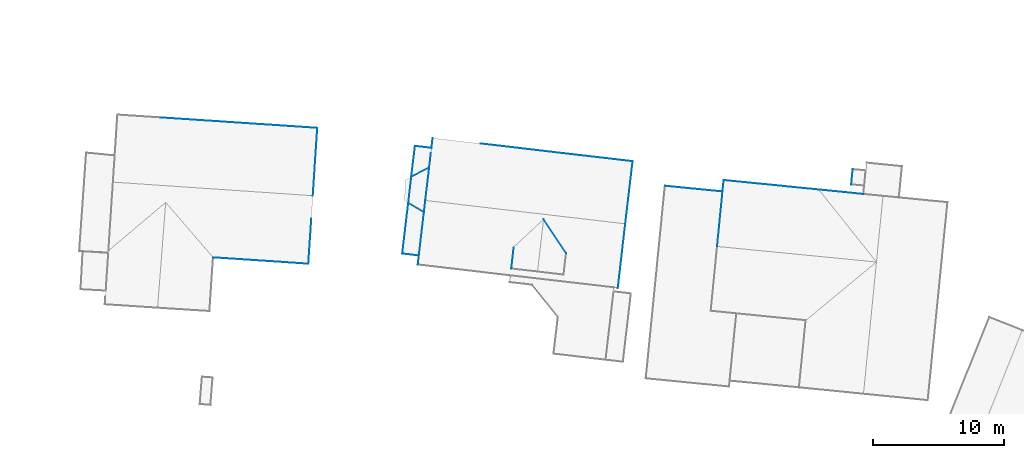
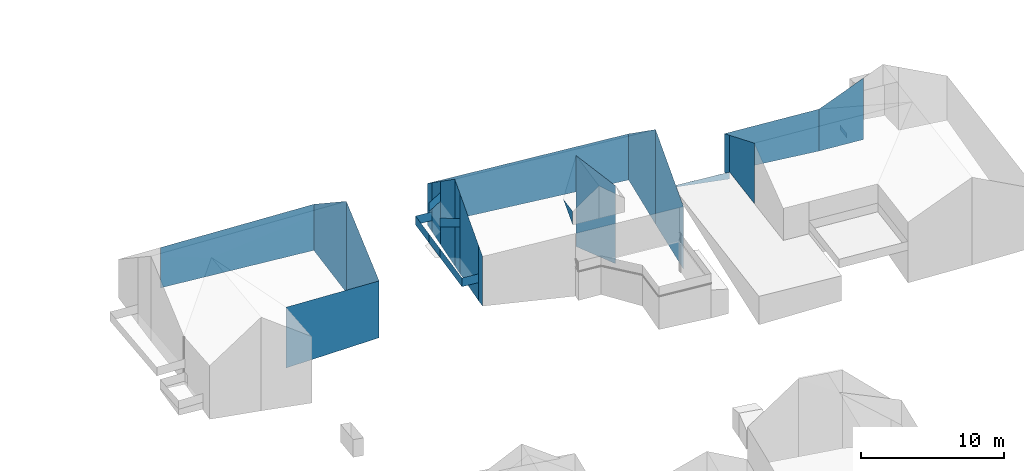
# Not in any storey, part 39 of 57: 35 walls.
"""IFC2X3 building model written with IfcOpenShell, lengths in metres."""

import ifcopenshell
import ifcopenshell.guid

model = None  # the IFC model being written
_history = None  # IfcOwnerHistory: only IFC2X3 demands one
_inside = {}  # id of a spatial element -> (the spatial element, [elements in it])
_under = {}  # id of a project, library or spatial element -> (it, [spatial elements below it])
_declared = {}  # id of a project -> (the project, [libraries it declares])
_typed = {}  # id of a type object -> (the type object, [elements of that type])
_made_of = {}  # id of a material, layer set ... -> (it, [elements and type objects made of it])


def new_model(schema):
    """Start an empty IFC model of exactly this schema.

    Asked for "IFC4X3", IfcOpenShell would pick the latest addendum, in which some entities
    have other attributes; the version numbers below select the first issue.
    IFC2X3 requires an IfcOwnerHistory on every rooted entity: one is made here for all.
    """
    global model, _history
    if schema == "IFC4X3":
        model = ifcopenshell.file(schema_version=(4, 3, 0, 0))
    else:
        model = ifcopenshell.file(schema=schema)
    _inside.clear()
    _under.clear()
    _declared.clear()
    _typed.clear()
    _made_of.clear()
    _history = None
    if model.schema == "IFC2X3":
        org = make("IfcOrganization", Name="unknown")
        user = make(
            "IfcPersonAndOrganization",
            ThePerson=make("IfcPerson", FamilyName="unknown"),
            TheOrganization=org,
        )
        app = make(
            "IfcApplication",
            ApplicationDeveloper=org,
            Version="unknown",
            ApplicationFullName="unknown",
            ApplicationIdentifier="unknown",
        )
        _history = make(
            "IfcOwnerHistory",
            OwningUser=user,
            OwningApplication=app,
            ChangeAction="ADDED",
            CreationDate=0,
        )
    return model


def make(cls, **values):
    """One entity of the class cls with the attributes given. An attribute that is None is left unset."""
    return model.create_entity(
        cls, **{name: value for name, value in values.items() if value is not None}
    )


def entity(cls, *values):
    """Any entity or typed value of the class cls, its attributes in the order of the schema. None: left unset."""
    e = model.create_entity(cls)
    for i, value in enumerate(values):
        if value is not None:
            e[i] = value
    return e


def rooted(cls, **values):
    """An entity with a GlobalId (a new one), such as an element, a storey or a relation."""
    return make(cls, GlobalId=ifcopenshell.guid.new(), OwnerHistory=_history, **values)


def si_unit(unit_type, name, prefix=None):
    """IfcSIUnit, for example si_unit("LENGTHUNIT", "METRE", prefix="MILLI")."""
    return make("IfcSIUnit", UnitType=unit_type, Prefix=prefix, Name=name)


def converted_unit(unit_type, name, factor, base, dimensions=None, offset=None):
    """IfcConversionBasedUnit, such as the inch: factor (a typed value) times the base unit."""
    return make(
        "IfcConversionBasedUnit"
        if offset is None
        else "IfcConversionBasedUnitWithOffset",
        ConversionOffset=offset,
        Dimensions=None
        if dimensions is None
        else entity("IfcDimensionalExponents", *dimensions),
        UnitType=unit_type,
        Name=name,
        ConversionFactor=make(
            "IfcMeasureWithUnit", ValueComponent=factor, UnitComponent=base
        ),
    )


def assignment(units):
    """IfcUnitAssignment: the units of a project."""
    return None if units is None else make("IfcUnitAssignment", Units=units)


def point(xyz):
    """IfcCartesianPoint."""
    return None if xyz is None else make("IfcCartesianPoint", Coordinates=xyz)


def direction(xyz):
    """IfcDirection."""
    return None if xyz is None else make("IfcDirection", DirectionRatios=xyz)


def frame(location, z_axis=None, x_axis=None):
    """IfcAxis2Placement3D, a coordinate frame: its origin and axes. An axis left out is left unset."""
    return make(
        "IfcAxis2Placement3D",
        Location=point(location),
        Axis=direction(z_axis),
        RefDirection=direction(x_axis),
    )


def origin():
    """The frame at (0, 0, 0) with its axes left unset."""
    return frame((0.0, 0.0, 0.0))


def place(relative_to, where):
    """IfcLocalPlacement: puts the frame where relative to a parent placement (None: the world)."""
    return make(
        "IfcLocalPlacement", PlacementRelTo=relative_to, RelativePlacement=where
    )


def context(
    kind, dimensions, precision=None, world=None, true_north=None, identifier=None
):
    """IfcGeometricRepresentationContext, for example the 3D "Model" context."""
    return make(
        "IfcGeometricRepresentationContext",
        ContextIdentifier=identifier,
        ContextType=kind,
        CoordinateSpaceDimension=dimensions,
        Precision=precision,
        WorldCoordinateSystem=world,
        TrueNorth=true_north,
    )


def subcontext(parent, identifier, kind, view, scale=None):
    """IfcGeometricRepresentationSubContext, for example "Body" below "Model"."""
    return make(
        "IfcGeometricRepresentationSubContext",
        ContextIdentifier=identifier,
        ContextType=kind,
        ParentContext=parent,
        TargetScale=scale,
        TargetView=view,
    )


def project(units=None, contexts=None):
    """IfcProject with its units and contexts."""
    return rooted(
        "IfcProject",
        Name="project",
        RepresentationContexts=contexts,
        UnitsInContext=assignment(units),
    )


def spatial(cls, under=None, at=None, **own):
    """A site, building, storey or space (cls), placed at a placement, below another one or the project."""
    s = rooted(cls, ObjectPlacement=at, **own)
    if under is not None:
        _under.setdefault(under.id(), (under, []))[1].append(s)
    return s


def faces_of(points, faces, orient=None, outer=None):
    """IfcFace entities. A face is a list of loops; a loop is a list of indices into points, from 0.

    orient and outer hold one flag for each loop. By default every Orientation is true, the
    first loop of a face is its IfcFaceOuterBound and the others are IfcFaceBound.
    """
    made = []
    for i, loops in enumerate(faces):
        bounds = []
        for j, loop in enumerate(loops):
            is_outer = j == 0 if outer is None else outer[i][j]
            bounds.append(
                make(
                    "IfcFaceOuterBound" if is_outer else "IfcFaceBound",
                    Bound=make("IfcPolyLoop", Polygon=[points[k] for k in loop]),
                    Orientation=True if orient is None else orient[i][j],
                )
            )
        made.append(make("IfcFace", Bounds=bounds))
    return made


def face_set(faces, orient=None, outer=None):
    """The faces of one IfcConnectedFaceSet. surface_model builds it on its shared points."""
    return ("IfcConnectedFaceSet", faces, orient, outer)


def surface_model(cls, points, shells):
    """IfcFaceBasedSurfaceModel or IfcShellBasedSurfaceModel (cls): surfaces that need not close."""
    shared = [point(p) for p in points]
    made = [make(c, CfsFaces=faces_of(shared, fs, o, b)) for c, fs, o, b in shells]
    if cls == "IfcFaceBasedSurfaceModel":
        return make(cls, FbsmFaces=made)
    return make(cls, SbsmBoundary=made)


def shape(context_of_items, identifier, shape_type, items):
    """IfcShapeRepresentation: the items that make up one representation, for example the "Body"."""
    return make(
        "IfcShapeRepresentation",
        ContextOfItems=context_of_items,
        RepresentationIdentifier=identifier,
        RepresentationType=shape_type,
        Items=items,
    )


def made_of(thing, what):
    """Note that an element or type object is made of a material, layer set ...; save() writes the relation."""
    if what is not None:
        _made_of.setdefault(what.id(), (what, []))[1].append(thing)
    return thing


def element(
    cls,
    number,
    at=None,
    inside=None,
    cuts=None,
    type_object=None,
    material=None,
    context=None,
    identifier="Body",
    shape_type=None,
    held_by="IfcProductDefinitionShape",
    body=None,
    shapes=None,
    **own,
):
    """One element of the class cls, such as IfcWall. Its Tag is "e" and its number.

    at: its placement. inside: the storey or other place that contains it. cuts: it is an
    opening in that element (IfcRelVoidsElement). A single representation is given by context,
    identifier, shape_type and body (its items); several are given by shapes. held_by: the class
    of the entity that holds the representations. save() writes the other relations.
    """
    e = rooted(cls, Tag="e%d" % number, ObjectPlacement=at, **own)
    if body is not None:
        shapes = [shape(context, identifier, shape_type, body)]
    if shapes is not None:
        e.Representation = make(held_by, Representations=shapes)
    if inside is not None:
        _inside.setdefault(inside.id(), (inside, []))[1].append(e)
    if cuts is not None:
        rooted(
            "IfcRelVoidsElement", RelatingBuildingElement=cuts, RelatedOpeningElement=e
        )
    if type_object is not None:
        _typed.setdefault(type_object.id(), (type_object, []))[1].append(e)
    return made_of(e, material)


def aggregate(whole, parts):
    """IfcRelAggregates: a whole, such as a stair, and the parts it consists of."""
    return rooted("IfcRelAggregates", RelatingObject=whole, RelatedObjects=parts)


def save(model, path):
    """Write the relations noted so far, then the file.

    IfcRelAggregates (storeys below a building ...), IfcRelContainedInSpatialStructure (elements
    in a storey), IfcRelDefinesByType, IfcRelAssociatesMaterial and IfcRelDeclares: one each for
    every whole, place, type object, material and project.
    """
    for whole, parts in _under.values():
        aggregate(whole, parts)
    for where, things in _inside.values():
        rooted(
            "IfcRelContainedInSpatialStructure",
            RelatedElements=things,
            RelatingStructure=where,
        )
    for kind, things in _typed.values():
        rooted("IfcRelDefinesByType", RelatedObjects=things, RelatingType=kind)
    for what, things in _made_of.values():
        rooted("IfcRelAssociatesMaterial", RelatedObjects=things, RelatingMaterial=what)
    for by, libraries in _declared.values():
        rooted("IfcRelDeclares", RelatingContext=by, RelatedDefinitions=libraries)
    model.write(path)


model = new_model("IFC2X3")

# Units and contexts
model_context = context("Model", 3, precision=1e-05, world=origin())
body_context = subcontext(model_context, "Body", "Model", "MODEL_VIEW")
ifc_project = project(units=[converted_unit("PLANEANGLEUNIT", "DEGREE", entity("IfcRatioMeasure", 0.0174532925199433), si_unit("PLANEANGLEUNIT", "RADIAN"), dimensions=[0, 0, 0, 0, 0, 0, 0]), si_unit("AREAUNIT", "SQUARE_METRE"), si_unit("LENGTHUNIT", "METRE")], contexts=[model_context])

# Site, building
site_placement = place(None, origin())
site = spatial("IfcSite", under=ifc_project, at=site_placement, Name="_site", CompositionType="ELEMENT")
building_1_placement = place(site_placement, origin())
building_1 = spatial("IfcBuilding", under=site, at=building_1_placement, Name="_building", CompositionType="ELEMENT")

# Walls
wall_1_placement = place(building_1_placement, origin())
element("IfcWall", 1, at=wall_1_placement, inside=building_1, Name="Wall", context=body_context, shape_type="SurfaceModel", body=[
    surface_model("IfcFaceBasedSurfaceModel", [(242.468, 147.971, 117.68), (242.657, 149.627, 117.674), (242.468, 147.971, 116.513)], [face_set([[[0, 1, 2]]])]),
])
wall_2_placement = place(building_1_placement, origin())
element("IfcWall", 2, at=wall_2_placement, inside=building_1, Name="Wall", context=body_context, shape_type="SurfaceModel", body=[
    surface_model("IfcFaceBasedSurfaceModel", [(251.143, 151.39, 119.58), (250.578, 146.5, 116.15), (250.578, 146.5, 110.785), (251.143, 151.39, 111.47)], [face_set([[[0, 1, 2, 3]]])]),
])
wall_3_placement = place(building_1_placement, origin())
element("IfcWall", 3, at=wall_3_placement, inside=building_1, Name="Wall", context=body_context, shape_type="SurfaceModel", body=[
    surface_model("IfcFaceBasedSurfaceModel", [(251.705, 156.14, 116.13), (251.143, 151.39, 119.58), (251.143, 151.39, 111.47), (251.705, 156.14, 112.179)], [face_set([[[0, 1, 2, 3]]])]),
])
wall_4_placement = place(building_1_placement, origin())
element("IfcWall", 4, at=wall_4_placement, inside=building_1, Name="Wall", context=body_context, shape_type="SurfaceModel", body=[
    surface_model("IfcFaceBasedSurfaceModel", [(235.43, 148.966, 116.632), (235.816, 152.248, 118.935), (235.816, 152.248, 112.093), (235.43, 148.966, 111.888)], [face_set([[[0, 1, 2, 3]]])]),
])
wall_5_placement = place(building_1_placement, origin())
element("IfcWall", 5, at=wall_5_placement, inside=building_1, Name="Wall", context=body_context, shape_type="SurfaceModel", body=[
    surface_model("IfcFaceBasedSurfaceModel", [(235.925, 153.167, 119.58), (236.215, 155.673, 117.77), (236.215, 155.673, 112.371), (235.925, 153.167, 112.159)], [face_set([[[0, 1, 2, 3]]])]),
])
wall_6_placement = place(building_1_placement, origin())
element("IfcWall", 6, at=wall_6_placement, inside=building_1, Name="Wall", context=body_context, shape_type="SurfaceModel", body=[
    surface_model("IfcFaceBasedSurfaceModel", [(244.917, 151.736, 119.316), (246.638, 149.164, 117.675), (246.638, 149.164, 111.011), (244.917, 151.736, 111.532)], [face_set([[[0, 1, 2, 3]]])]),
])
wall_7_placement = place(building_1_placement, origin())
element("IfcWall", 7, at=wall_7_placement, inside=building_1, Name="Wall", context=body_context, shape_type="SurfaceModel", body=[
    surface_model("IfcFaceBasedSurfaceModel", [(236.477, 157.917, 116.15), (251.705, 156.14, 116.13), (251.705, 156.14, 112.179), (236.477, 157.917, 112.557)], [face_set([[[0, 1, 2, 3]]])]),
])
wall_8_placement = place(building_1_placement, origin())
element("IfcWall", 8, at=wall_8_placement, inside=building_1, Name="Wall", context=body_context, shape_type="SurfaceModel", body=[
    surface_model("IfcFaceBasedSurfaceModel", [(235.816, 152.248, 118.935), (235.925, 153.167, 119.58), (235.925, 153.167, 112.159), (235.816, 152.248, 112.093)], [face_set([[[0, 1, 2, 3]]])]),
])
wall_9_placement = place(building_1_placement, origin())
element("IfcWall", 9, at=wall_9_placement, inside=building_1, Name="Wall", context=body_context, shape_type="SurfaceModel", body=[
    surface_model("IfcFaceBasedSurfaceModel", [(236.215, 155.673, 117.77), (236.389, 157.159, 116.697), (236.389, 157.159, 112.494), (236.215, 155.673, 112.371)], [face_set([[[0, 1, 2, 3]]])]),
])
wall_10_placement = place(building_1_placement, origin())
element("IfcWall", 10, at=wall_10_placement, inside=building_1, Name="Wall", context=body_context, shape_type="SurfaceModel", body=[
    surface_model("IfcFaceBasedSurfaceModel", [(235.35, 148.278, 116.15), (235.43, 148.966, 116.632), (235.43, 148.966, 111.888), (235.35, 148.278, 111.881)], [face_set([[[0, 1, 2, 3]]])]),
])
wall_11_placement = place(building_1_placement, origin())
element("IfcWall", 11, at=wall_11_placement, inside=building_1, Name="Wall", context=body_context, shape_type="SurfaceModel", body=[
    surface_model("IfcFaceBasedSurfaceModel", [(236.389, 157.159, 116.697), (236.477, 157.917, 116.15), (236.477, 157.917, 112.557), (236.389, 157.159, 112.494)], [face_set([[[0, 1, 2, 3]]])]),
])
wall_12_placement = place(building_1_placement, origin())
element("IfcWall", 12, at=wall_12_placement, inside=building_1, Name="Wall", context=body_context, shape_type="SurfaceModel", body=[
    surface_model("IfcFaceBasedSurfaceModel", [(235.43, 148.966, 113.45), (234.169, 149.116, 113.45), (234.169, 149.116, 114.2), (235.43, 148.966, 114.2)], [face_set([[[0, 1, 2, 3]]])]),
])
wall_13_placement = place(building_1_placement, origin())
element("IfcWall", 13, at=wall_13_placement, inside=building_1, Name="Wall", context=body_context, shape_type="SurfaceModel", body=[
    surface_model("IfcFaceBasedSurfaceModel", [(234.622, 152.968, 116.07), (235.816, 152.248, 116.07), (235.816, 152.248, 116.82), (234.622, 152.968, 116.82)], [face_set([[[0, 1, 2, 3]]])]),
])
wall_14_placement = place(building_1_placement, origin())
element("IfcWall", 14, at=wall_14_placement, inside=building_1, Name="Wall", context=body_context, shape_type="SurfaceModel", body=[
    surface_model("IfcFaceBasedSurfaceModel", [(234.622, 152.968, 113.45), (234.856, 154.961, 113.45), (234.856, 154.961, 114.2), (234.622, 152.968, 114.2)], [face_set([[[0, 1, 2, 3]]])]),
])
wall_15_placement = place(building_1_placement, origin())
element("IfcWall", 15, at=wall_15_placement, inside=building_1, Name="Wall", context=body_context, shape_type="SurfaceModel", body=[
    surface_model("IfcFaceBasedSurfaceModel", [(236.215, 155.673, 116.07), (234.856, 154.961, 116.07), (234.856, 154.961, 116.82), (236.215, 155.673, 116.82)], [face_set([[[0, 1, 2, 3]]])]),
])
wall_16_placement = place(building_1_placement, origin())
element("IfcWall", 16, at=wall_16_placement, inside=building_1, Name="Wall", context=body_context, shape_type="SurfaceModel", body=[
    surface_model("IfcFaceBasedSurfaceModel", [(234.169, 149.116, 113.45), (234.622, 152.968, 113.45), (234.622, 152.968, 114.2), (234.169, 149.116, 114.2)], [face_set([[[0, 1, 2, 3]]])]),
])
wall_17_placement = place(building_1_placement, origin())
element("IfcWall", 17, at=wall_17_placement, inside=building_1, Name="Wall", context=body_context, shape_type="SurfaceModel", body=[
    surface_model("IfcFaceBasedSurfaceModel", [(235.132, 157.308, 113.45), (236.389, 157.159, 113.45), (236.389, 157.159, 114.2), (235.132, 157.308, 114.2)], [face_set([[[0, 1, 2, 3]]])]),
])
wall_18_placement = place(building_1_placement, origin())
element("IfcWall", 18, at=wall_18_placement, inside=building_1, Name="Wall", context=body_context, shape_type="SurfaceModel", body=[
    surface_model("IfcFaceBasedSurfaceModel", [(234.856, 154.961, 113.45), (235.132, 157.308, 113.45), (235.132, 157.308, 114.2), (234.856, 154.961, 114.2)], [face_set([[[0, 1, 2, 3]]])]),
])
wall_19_placement = place(building_1_placement, origin())
element("IfcWall", 19, at=wall_19_placement, inside=building_1, Name="Wall", context=body_context, shape_type="SurfaceModel", body=[
    surface_model("IfcFaceBasedSurfaceModel", [(234.169, 149.116, 113.45), (234.622, 152.968, 113.45), (234.622, 152.968, 114.2), (234.169, 149.116, 114.2)], [face_set([[[0, 1, 2, 3]]])]),
])
wall_20_placement = place(building_1_placement, origin())
element("IfcWall", 20, at=wall_20_placement, inside=building_1, Name="Wall", context=body_context, shape_type="SurfaceModel", body=[
    surface_model("IfcFaceBasedSurfaceModel", [(235.43, 148.966, 113.45), (234.169, 149.116, 113.45), (234.169, 149.116, 114.2), (235.43, 148.966, 114.2)], [face_set([[[0, 1, 2, 3]]])]),
])
wall_21_placement = place(building_1_placement, origin())
element("IfcWall", 21, at=wall_21_placement, inside=building_1, Name="Wall", context=body_context, shape_type="SurfaceModel", body=[
    surface_model("IfcFaceBasedSurfaceModel", [(236.215, 155.673, 116.07), (234.856, 154.961, 116.07), (234.856, 154.961, 116.82), (236.215, 155.673, 116.82)], [face_set([[[0, 1, 2, 3]]])]),
])
wall_22_placement = place(building_1_placement, origin())
element("IfcWall", 22, at=wall_22_placement, inside=building_1, Name="Wall", context=body_context, shape_type="SurfaceModel", body=[
    surface_model("IfcFaceBasedSurfaceModel", [(235.132, 157.308, 113.45), (236.389, 157.159, 113.45), (236.389, 157.159, 114.2), (235.132, 157.308, 114.2)], [face_set([[[0, 1, 2, 3]]])]),
])
wall_23_placement = place(building_1_placement, origin())
element("IfcWall", 23, at=wall_23_placement, inside=building_1, Name="Wall", context=body_context, shape_type="SurfaceModel", body=[
    surface_model("IfcFaceBasedSurfaceModel", [(234.622, 152.968, 116.07), (235.816, 152.248, 116.07), (235.816, 152.248, 116.82), (234.622, 152.968, 116.82)], [face_set([[[0, 1, 2, 3]]])]),
])
wall_24_placement = place(building_1_placement, origin())
element("IfcWall", 24, at=wall_24_placement, inside=building_1, Name="Wall", context=body_context, shape_type="SurfaceModel", body=[
    surface_model("IfcFaceBasedSurfaceModel", [(234.622, 152.968, 113.45), (234.856, 154.961, 113.45), (234.856, 154.961, 114.2), (234.622, 152.968, 114.2)], [face_set([[[0, 1, 2, 3]]])]),
])
wall_25_placement = place(building_1_placement, origin())
element("IfcWall", 25, at=wall_25_placement, inside=building_1, Name="Wall", context=body_context, shape_type="SurfaceModel", body=[
    surface_model("IfcFaceBasedSurfaceModel", [(234.856, 154.961, 113.45), (235.132, 157.308, 113.45), (235.132, 157.308, 114.2), (234.856, 154.961, 114.2)], [face_set([[[0, 1, 2, 3]]])]),
])

# Building
building_2_placement = place(site_placement, origin())
building_2 = spatial("IfcBuilding", under=site, at=building_2_placement, Name="_building", CompositionType="ELEMENT")

# Walls
wall_26_placement = place(building_2_placement, origin())
element("IfcWall", 26, at=wall_26_placement, inside=building_2, Name="Wall", context=body_context, shape_type="SurfaceModel", body=[
    surface_model("IfcFaceBasedSurfaceModel", [(215.76, 159.473, 116.97), (227.699, 158.683, 116.97), (227.699, 158.683, 113.019), (215.76, 159.473, 113.513)], [face_set([[[0, 1, 2, 3]]])]),
])
wall_27_placement = place(building_2_placement, origin())
element("IfcWall", 27, at=wall_27_placement, inside=building_2, Name="Wall", context=body_context, shape_type="SurfaceModel", body=[
    surface_model("IfcFaceBasedSurfaceModel", [(227.017, 148.342, 116.92), (219.764, 148.822, 116.92), (219.764, 148.822, 111.717), (227.017, 148.342, 112.056)], [face_set([[[0, 1, 2, 3]]])]),
])
wall_28_placement = place(building_2_placement, origin())
element("IfcWall", 28, at=wall_28_placement, inside=building_2, Name="Wall", context=body_context, shape_type="SurfaceModel", body=[
    surface_model("IfcFaceBasedSurfaceModel", [(227.699, 158.683, 116.97), (227.358, 153.528, 120.47), (227.358, 153.528, 112.66), (227.699, 158.683, 113.019)], [face_set([[[0, 1, 2, 3]]])]),
])
wall_29_placement = place(building_2_placement, origin())
element("IfcWall", 29, at=wall_29_placement, inside=building_2, Name="Wall", context=body_context, shape_type="SurfaceModel", body=[
    surface_model("IfcFaceBasedSurfaceModel", [(227.358, 153.528, 120.47), (227.017, 148.342, 116.92), (227.017, 148.342, 112.056), (227.358, 153.528, 112.66)], [face_set([[[0, 1, 2, 3]]])]),
])

# Building
building_3_placement = place(site_placement, origin())
building_3 = spatial("IfcBuilding", under=site, at=building_3_placement, Name="_building", CompositionType="ELEMENT")

# Walls
wall_30_placement = place(building_3_placement, origin())
element("IfcWall", 30, at=wall_30_placement, inside=building_3, Name="Wall", context=body_context, shape_type="SurfaceModel", body=[
    surface_model("IfcFaceBasedSurfaceModel", [(265.873, 153.987, 114.59), (269.267, 153.647, 116.27), (269.267, 153.647, 111.0), (265.873, 153.987, 111.0)], [face_set([[[0, 1, 2, 3]]])]),
])
wall_31_placement = place(building_3_placement, origin())
element("IfcWall", 31, at=wall_31_placement, inside=building_3, Name="Wall", context=body_context, shape_type="SurfaceModel", body=[
    surface_model("IfcFaceBasedSurfaceModel", [(258.635, 154.706, 114.59), (265.873, 153.987, 114.59), (265.873, 153.987, 111.0), (258.635, 154.706, 111.307)], [face_set([[[0, 1, 2, 3]]])]),
])
wall_32_placement = place(building_3_placement, origin())
element("IfcWall", 32, at=wall_32_placement, inside=building_3, Name="Wall", context=body_context, shape_type="SurfaceModel", body=[
    surface_model("IfcFaceBasedSurfaceModel", [(258.545, 153.838, 115.01), (258.635, 154.706, 114.59), (258.635, 154.706, 111.307), (258.545, 153.838, 111.269)], [face_set([[[0, 1, 2, 3]]])]),
])
wall_33_placement = place(building_3_placement, origin())
element("IfcWall", 33, at=wall_33_placement, inside=building_3, Name="Wall", context=body_context, shape_type="SurfaceModel", body=[
    surface_model("IfcFaceBasedSurfaceModel", [(268.344, 154.379, 111.41), (268.461, 155.537, 111.41), (268.461, 155.537, 111.0), (268.344, 154.379, 111.0)], [face_set([[[0, 1, 2, 3]]])]),
])
wall_34_placement = place(building_3_placement, origin())
element("IfcWall", 34, at=wall_34_placement, inside=building_3, Name="Wall", context=body_context, shape_type="SurfaceModel", body=[
    surface_model("IfcFaceBasedSurfaceModel", [(258.136, 149.665, 117.01), (258.545, 153.838, 115.01), (258.545, 153.838, 111.86), (258.136, 149.665, 111.846)], [face_set([[[0, 1, 2, 3]]])]),
])
wall_35_placement = place(building_3_placement, origin())
element("IfcWall", 35, at=wall_35_placement, inside=building_3, Name="Wall", context=body_context, shape_type="SurfaceModel", body=[
    surface_model("IfcFaceBasedSurfaceModel", [(254.162, 154.271, 111.93), (258.545, 153.838, 111.86), (258.545, 153.838, 111.269), (254.162, 154.271, 111.8)], [face_set([[[0, 1, 2, 3]]])]),
])

save(model, "model.ifc")
